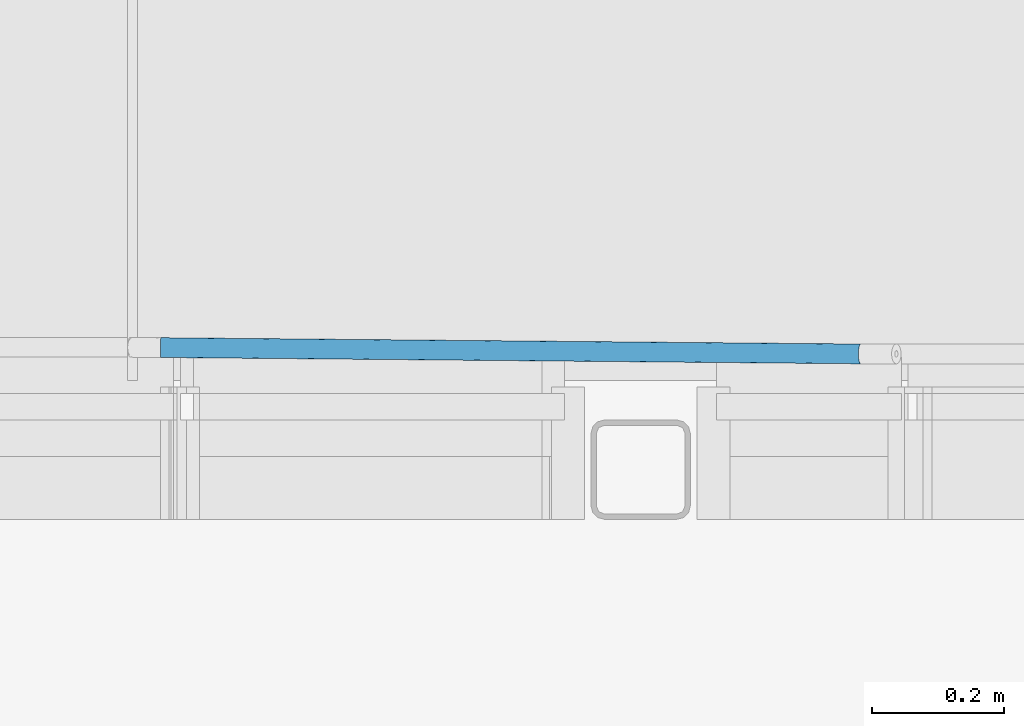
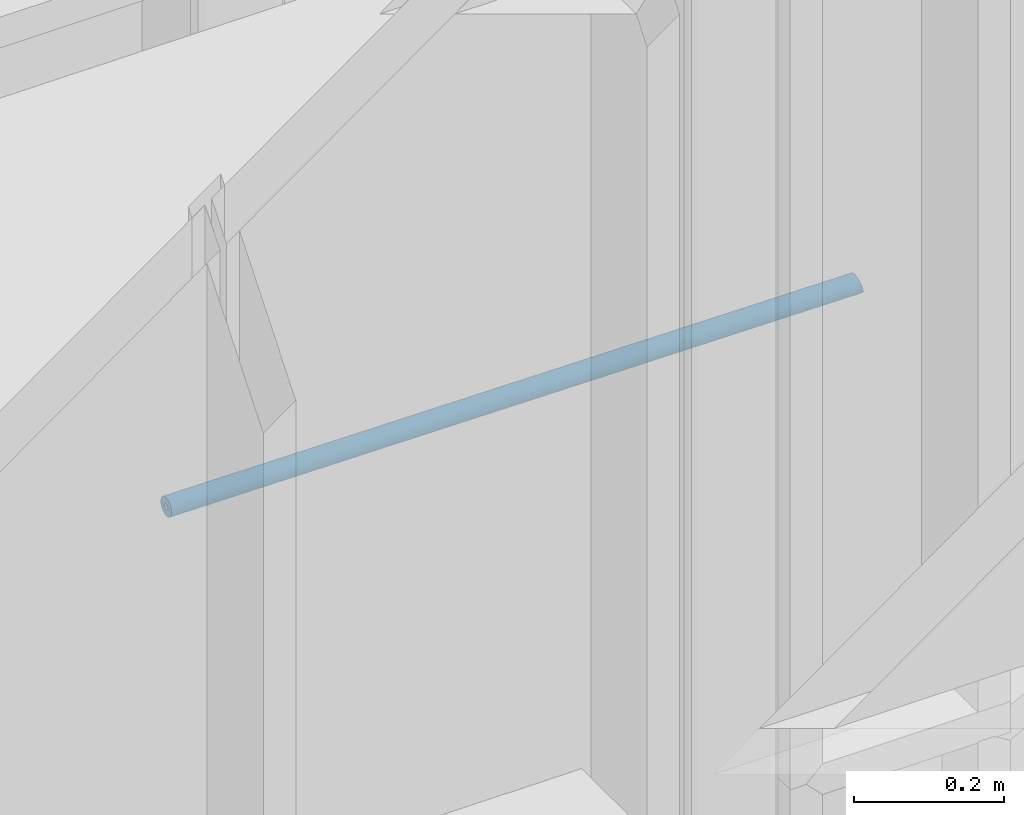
# One storey, part 191 of 301: 1 building element part, 1 element without a shape of its own.
"""IFC2X3 building model written with IfcOpenShell, lengths in millimetres."""

import ifcopenshell
import ifcopenshell.guid

model = None  # the IFC model being written
_history = None  # IfcOwnerHistory: only IFC2X3 demands one
_inside = {}  # id of a spatial element -> (the spatial element, [elements in it])
_under = {}  # id of a project, library or spatial element -> (it, [spatial elements below it])
_declared = {}  # id of a project -> (the project, [libraries it declares])
_typed = {}  # id of a type object -> (the type object, [elements of that type])
_made_of = {}  # id of a material, layer set ... -> (it, [elements and type objects made of it])


def new_model(schema):
    """Start an empty IFC model of exactly this schema.

    Asked for "IFC4X3", IfcOpenShell would pick the latest addendum, in which some entities
    have other attributes; the version numbers below select the first issue.
    IFC2X3 requires an IfcOwnerHistory on every rooted entity: one is made here for all.
    """
    global model, _history
    if schema == "IFC4X3":
        model = ifcopenshell.file(schema_version=(4, 3, 0, 0))
    else:
        model = ifcopenshell.file(schema=schema)
    _inside.clear()
    _under.clear()
    _declared.clear()
    _typed.clear()
    _made_of.clear()
    _history = None
    if model.schema == "IFC2X3":
        org = make("IfcOrganization", Name="unknown")
        user = make(
            "IfcPersonAndOrganization",
            ThePerson=make("IfcPerson", FamilyName="unknown"),
            TheOrganization=org,
        )
        app = make(
            "IfcApplication",
            ApplicationDeveloper=org,
            Version="unknown",
            ApplicationFullName="unknown",
            ApplicationIdentifier="unknown",
        )
        _history = make(
            "IfcOwnerHistory",
            OwningUser=user,
            OwningApplication=app,
            ChangeAction="ADDED",
            CreationDate=0,
        )
    return model


def make(cls, **values):
    """One entity of the class cls with the attributes given. An attribute that is None is left unset."""
    return model.create_entity(
        cls, **{name: value for name, value in values.items() if value is not None}
    )


def entity(cls, *values):
    """Any entity or typed value of the class cls, its attributes in the order of the schema. None: left unset."""
    e = model.create_entity(cls)
    for i, value in enumerate(values):
        if value is not None:
            e[i] = value
    return e


def rooted(cls, **values):
    """An entity with a GlobalId (a new one), such as an element, a storey or a relation."""
    return make(cls, GlobalId=ifcopenshell.guid.new(), OwnerHistory=_history, **values)


def si_unit(unit_type, name, prefix=None):
    """IfcSIUnit, for example si_unit("LENGTHUNIT", "METRE", prefix="MILLI")."""
    return make("IfcSIUnit", UnitType=unit_type, Prefix=prefix, Name=name)


def converted_unit(unit_type, name, factor, base, dimensions=None, offset=None):
    """IfcConversionBasedUnit, such as the inch: factor (a typed value) times the base unit."""
    return make(
        "IfcConversionBasedUnit"
        if offset is None
        else "IfcConversionBasedUnitWithOffset",
        ConversionOffset=offset,
        Dimensions=None
        if dimensions is None
        else entity("IfcDimensionalExponents", *dimensions),
        UnitType=unit_type,
        Name=name,
        ConversionFactor=make(
            "IfcMeasureWithUnit", ValueComponent=factor, UnitComponent=base
        ),
    )


def derived_unit(unit_type, elements):
    """IfcDerivedUnit: a product of units, each with its exponent."""
    return make(
        "IfcDerivedUnit",
        Elements=[
            make("IfcDerivedUnitElement", Unit=unit, Exponent=power)
            for unit, power in elements
        ],
        UnitType=unit_type,
    )


def money_unit(currency):
    """IfcMonetaryUnit."""
    return make("IfcMonetaryUnit", Currency=currency)


def assignment(units):
    """IfcUnitAssignment: the units of a project."""
    return None if units is None else make("IfcUnitAssignment", Units=units)


def point(xyz):
    """IfcCartesianPoint."""
    return None if xyz is None else make("IfcCartesianPoint", Coordinates=xyz)


def direction(xyz):
    """IfcDirection."""
    return None if xyz is None else make("IfcDirection", DirectionRatios=xyz)


def frame(location, z_axis=None, x_axis=None):
    """IfcAxis2Placement3D, a coordinate frame: its origin and axes. An axis left out is left unset."""
    return make(
        "IfcAxis2Placement3D",
        Location=point(location),
        Axis=direction(z_axis),
        RefDirection=direction(x_axis),
    )


def origin_with_axes():
    """The frame at (0, 0, 0) with the z axis (0, 0, 1) and the x axis (1, 0, 0) written out."""
    return frame((0.0, 0.0, 0.0), z_axis=(0.0, 0.0, 1.0), x_axis=(1.0, 0.0, 0.0))


def place(relative_to, where):
    """IfcLocalPlacement: puts the frame where relative to a parent placement (None: the world)."""
    return make(
        "IfcLocalPlacement", PlacementRelTo=relative_to, RelativePlacement=where
    )


def context(
    kind, dimensions, precision=None, world=None, true_north=None, identifier=None
):
    """IfcGeometricRepresentationContext, for example the 3D "Model" context."""
    return make(
        "IfcGeometricRepresentationContext",
        ContextIdentifier=identifier,
        ContextType=kind,
        CoordinateSpaceDimension=dimensions,
        Precision=precision,
        WorldCoordinateSystem=world,
        TrueNorth=true_north,
    )


def subcontext(parent, identifier, kind, view, scale=None):
    """IfcGeometricRepresentationSubContext, for example "Body" below "Model"."""
    return make(
        "IfcGeometricRepresentationSubContext",
        ContextIdentifier=identifier,
        ContextType=kind,
        ParentContext=parent,
        TargetScale=scale,
        TargetView=view,
    )


def project(units=None, contexts=None):
    """IfcProject with its units and contexts."""
    return rooted(
        "IfcProject",
        Name="project",
        RepresentationContexts=contexts,
        UnitsInContext=assignment(units),
    )


def spatial(cls, under=None, at=None, **own):
    """A site, building, storey or space (cls), placed at a placement, below another one or the project."""
    s = rooted(cls, ObjectPlacement=at, **own)
    if under is not None:
        _under.setdefault(under.id(), (under, []))[1].append(s)
    return s


def faces_of(points, faces, orient=None, outer=None):
    """IfcFace entities. A face is a list of loops; a loop is a list of indices into points, from 0.

    orient and outer hold one flag for each loop. By default every Orientation is true, the
    first loop of a face is its IfcFaceOuterBound and the others are IfcFaceBound.
    """
    made = []
    for i, loops in enumerate(faces):
        bounds = []
        for j, loop in enumerate(loops):
            is_outer = j == 0 if outer is None else outer[i][j]
            bounds.append(
                make(
                    "IfcFaceOuterBound" if is_outer else "IfcFaceBound",
                    Bound=make("IfcPolyLoop", Polygon=[points[k] for k in loop]),
                    Orientation=True if orient is None else orient[i][j],
                )
            )
        made.append(make("IfcFace", Bounds=bounds))
    return made


def faceted_brep(points, faces, orient=None, outer=None, voids=None):
    """IfcFacetedBrep: a solid bounded by flat faces; with voids (closed shells), ...WithVoids."""
    shared = [point(p) for p in points]
    hull = make("IfcClosedShell", CfsFaces=faces_of(shared, faces, orient, outer))
    if voids is None:
        return make("IfcFacetedBrep", Outer=hull)
    return make(
        "IfcFacetedBrepWithVoids",
        Outer=hull,
        Voids=[
            make(cls, CfsFaces=faces_of(shared, fs, o, b)) for cls, fs, o, b in voids
        ],
    )


def shape(context_of_items, identifier, shape_type, items):
    """IfcShapeRepresentation: the items that make up one representation, for example the "Body"."""
    return make(
        "IfcShapeRepresentation",
        ContextOfItems=context_of_items,
        RepresentationIdentifier=identifier,
        RepresentationType=shape_type,
        Items=items,
    )


def material(Name=None, Category=None):
    """IfcMaterial."""
    return make("IfcMaterial", Name=Name, Category=Category)


def made_of(thing, what):
    """Note that an element or type object is made of a material, layer set ...; save() writes the relation."""
    if what is not None:
        _made_of.setdefault(what.id(), (what, []))[1].append(thing)
    return thing


def type_object(cls, material=None, **own):
    """A type object (cls), such as IfcWallType, which elements share."""
    return made_of(rooted(cls, **own), material)


def element(
    cls,
    number,
    at=None,
    inside=None,
    cuts=None,
    type_object=None,
    material=None,
    context=None,
    identifier="Body",
    shape_type=None,
    held_by="IfcProductDefinitionShape",
    body=None,
    shapes=None,
    **own,
):
    """One element of the class cls, such as IfcWall. Its Tag is "e" and its number.

    at: its placement. inside: the storey or other place that contains it. cuts: it is an
    opening in that element (IfcRelVoidsElement). A single representation is given by context,
    identifier, shape_type and body (its items); several are given by shapes. held_by: the class
    of the entity that holds the representations. save() writes the other relations.
    """
    e = rooted(cls, Tag="e%d" % number, ObjectPlacement=at, **own)
    if body is not None:
        shapes = [shape(context, identifier, shape_type, body)]
    if shapes is not None:
        e.Representation = make(held_by, Representations=shapes)
    if inside is not None:
        _inside.setdefault(inside.id(), (inside, []))[1].append(e)
    if cuts is not None:
        rooted(
            "IfcRelVoidsElement", RelatingBuildingElement=cuts, RelatedOpeningElement=e
        )
    if type_object is not None:
        _typed.setdefault(type_object.id(), (type_object, []))[1].append(e)
    return made_of(e, material)


def aggregate(whole, parts):
    """IfcRelAggregates: a whole, such as a stair, and the parts it consists of."""
    return rooted("IfcRelAggregates", RelatingObject=whole, RelatedObjects=parts)


def save(model, path):
    """Write the relations noted so far, then the file.

    IfcRelAggregates (storeys below a building ...), IfcRelContainedInSpatialStructure (elements
    in a storey), IfcRelDefinesByType, IfcRelAssociatesMaterial and IfcRelDeclares: one each for
    every whole, place, type object, material and project.
    """
    for whole, parts in _under.values():
        aggregate(whole, parts)
    for where, things in _inside.values():
        rooted(
            "IfcRelContainedInSpatialStructure",
            RelatedElements=things,
            RelatingStructure=where,
        )
    for kind, things in _typed.values():
        rooted("IfcRelDefinesByType", RelatedObjects=things, RelatingType=kind)
    for what, things in _made_of.values():
        rooted("IfcRelAssociatesMaterial", RelatedObjects=things, RelatingMaterial=what)
    for by, libraries in _declared.values():
        rooted("IfcRelDeclares", RelatingContext=by, RelatedDefinitions=libraries)
    model.write(path)


model = new_model("IFC2X3")

# Units and contexts
model_context = context("Model", 3, precision=0.01, world=origin_with_axes(), true_north=direction((0.0, 1.0)))
body_context = subcontext(model_context, "Body", "Model", "MODEL_VIEW")
ifc_project = project(units=[si_unit("LENGTHUNIT", "METRE", prefix="MILLI"), si_unit("AREAUNIT", "SQUARE_METRE"), si_unit("VOLUMEUNIT", "CUBIC_METRE"), converted_unit("PLANEANGLEUNIT", "DEGREE", entity("IfcPlaneAngleMeasure", 0.0174532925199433), si_unit("PLANEANGLEUNIT", "RADIAN"), dimensions=[0, 0, 0, 0, 0, 0, 0]), money_unit("EUR"), converted_unit("TIMEUNIT", "Year", entity("IfcTimeMeasure", 31557600.0), si_unit("TIMEUNIT", "SECOND"), dimensions=[0, 0, 1, 0, 0, 0, 0]), si_unit("MASSUNIT", "GRAM", prefix="KILO"), si_unit("THERMODYNAMICTEMPERATUREUNIT", "DEGREE_CELSIUS"), si_unit("LUMINOUSINTENSITYUNIT", "LUMEN"), si_unit("ENERGYUNIT", "JOULE", prefix="MEGA"), derived_unit("THERMALCONDUCTANCEUNIT", [(si_unit("POWERUNIT", "WATT"), 1), (si_unit("LENGTHUNIT", "METRE"), -1), (si_unit("THERMODYNAMICTEMPERATUREUNIT", "KELVIN"), -1)]), derived_unit("SPECIFICHEATCAPACITYUNIT", [(si_unit("ENERGYUNIT", "JOULE"), 1), (si_unit("MASSUNIT", "GRAM", prefix="KILO"), -1), (si_unit("THERMODYNAMICTEMPERATUREUNIT", "KELVIN"), -1)]), derived_unit("MASSDENSITYUNIT", [(si_unit("MASSUNIT", "GRAM", prefix="KILO"), 1), (si_unit("VOLUMEUNIT", "CUBIC_METRE"), -1)])], contexts=[model_context])

# Site, building, storey
site_placement = place(None, frame((0.0, 0.0, 8650.0), z_axis=(0.0, 0.0, 1.0), x_axis=(1.0, 0.0, 0.0)))
site = spatial("IfcSite", under=ifc_project, at=site_placement, Name="43301:001:0844", CompositionType="ELEMENT")
building_placement = place(site_placement, origin_with_axes())
building = spatial("IfcBuilding", under=site, at=building_placement, Name="Kuressaare Ametikooli tuulikute mehaanikute õppekorpus", CompositionType="ELEMENT")
storey_placement = place(building_placement, origin_with_axes())
storey = spatial("IfcBuildingStorey", under=building, at=storey_placement, Name="1.korrus", CompositionType="ELEMENT", Elevation=0.0)

# Railing, building element part
railing_type = type_object("IfcRailingType", Name="Railing Type", PredefinedType="NOTDEFINED")
railing_placement = place(storey_placement, frame((107882.9493746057, 26509.57374875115, 157.6923606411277), z_axis=(0.0, 0.0, 1.0), x_axis=(1.0, 0.0, 0.0)))
railing = element("IfcRailing", 1, at=railing_placement, inside=storey, type_object=railing_type, Name="Piire", PredefinedType="NOTDEFINED")
ifc_material = material(Name="Metall - Teras - Roostevaba")
building_element_part_placement = place(railing_placement, origin_with_axes())
building_element_part = element("IfcBuildingElementPart", 2, at=building_element_part_placement, material=ifc_material, Name="Metall - Teras - Roostevaba", context=body_context, shape_type="Brep", body=[
    faceted_brep([(2609.304336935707, 48.05500736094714, 2567.665878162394), (2609.335024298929, 48.05472964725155, 2567.665878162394), (3670.364375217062, 38.47917582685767, 2567.665892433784), (2609.321452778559, 46.55507664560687, 2569.807692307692), (2609.293381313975, 46.55533068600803, 2569.807692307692), (2609.318821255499, 49.9038044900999, 2565.817025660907), (2609.351755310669, 49.90350644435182, 2565.817025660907), (3670.843445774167, 40.32575845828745, 2565.817041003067), (3669.812486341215, 36.98208926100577, 2569.807705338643), (2609.286287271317, 45.45034138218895, 2572.177390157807), (2609.311453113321, 45.45011363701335, 2572.177390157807), (2609.283270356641, 44.77361399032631, 2574.702969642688), (2609.284422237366, 44.54571052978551, 2577.307692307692), (2609.289707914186, 44.77355573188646, 2579.912414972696), (2609.298966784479, 45.45022663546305, 2582.437994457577), (2609.311917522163, 46.55516293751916, 2584.807692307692), (2609.328166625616, 48.05479170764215, 2586.94950645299), (2609.347220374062, 49.90354748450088, 2588.798358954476), (2609.368499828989, 52.04525675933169, 2590.298073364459), (2609.391358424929, 54.41484477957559, 2591.40308161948), (2609.415101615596, 56.9403128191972, 2592.079809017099), (2609.43900797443, 59.54492578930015, 2592.307692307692), (2609.462351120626, 62.149543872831, 2592.07980860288), (2609.484421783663, 64.67502703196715, 2591.40308161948), (2609.504549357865, 67.04463976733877, 2590.298073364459), (2609.522122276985, 69.18638258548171, 2588.798358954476), (2609.536606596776, 71.03517971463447, 2586.94950645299), (2609.547562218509, 72.53485638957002, 2584.807692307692), (2609.554656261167, 73.63984569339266, 2582.437994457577), (2609.557673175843, 74.3165730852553, 2579.912414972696), (2609.556521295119, 74.5444765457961, 2577.307692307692), (2609.551235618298, 74.31663134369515, 2574.702969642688), (2609.541976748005, 73.63996044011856, 2572.177390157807), (2609.529026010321, 72.53502413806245, 2569.807692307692), (2609.512776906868, 71.03539536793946, 2567.665878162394), (2609.493723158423, 69.18663959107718, 2565.817025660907), (2609.472443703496, 67.04493031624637, 2564.317311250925), (2609.449585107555, 64.67534229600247, 2563.212302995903), (2609.425841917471, 62.14987426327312, 2562.535576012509), (2609.401935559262, 59.54526141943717, 2562.307692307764), (2609.378592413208, 56.94064335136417, 2562.535576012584), (2609.356521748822, 54.41516004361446, 2563.212302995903), (2609.336394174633, 52.04554730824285, 2564.317311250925), (2609.376883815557, 54.62124760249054, 2578.175933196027), (2609.375121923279, 54.54529920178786, 2577.307692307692), (2609.374737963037, 54.62126702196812, 2576.439451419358), (2609.375743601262, 54.84684281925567, 2575.597591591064), (2609.378108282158, 55.21517258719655, 2574.807692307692), (2609.381760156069, 55.71506481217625, 2574.093754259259), (2609.386588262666, 56.33133052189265, 2573.477470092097), (2609.392445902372, 57.04524479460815, 2572.97756528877), (2609.399155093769, 57.83511570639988, 2572.609229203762), (2609.40651198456, 58.67694376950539, 2572.383653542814), (2609.414293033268, 59.54514979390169, 2572.307692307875), (2609.422261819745, 60.41335412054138, 2572.383653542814), (2609.430176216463, 61.25517680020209, 2572.609229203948), (2609.437795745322, 62.04503913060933, 2572.97756528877), (2609.444888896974, 62.75894222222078, 2573.477470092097), (2609.451240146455, 63.37519414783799, 2574.093754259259), (2609.456656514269, 63.87507040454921, 2574.807692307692), (2609.460973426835, 64.2433825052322, 2575.597591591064), (2609.464059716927, 64.46893947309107, 2576.439451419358), (2609.465821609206, 64.54488787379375, 2577.307692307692), (2609.466205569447, 64.46892005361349, 2578.175933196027), (2609.465199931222, 64.24334425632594, 2579.01779302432), (2609.462835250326, 63.87501448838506, 2579.807692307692), (2609.459183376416, 63.37512226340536, 2580.521630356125), (2609.454355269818, 62.75885655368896, 2581.137914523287), (2609.448497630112, 62.04494228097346, 2581.637819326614), (2609.441788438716, 61.25507136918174, 2582.006155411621), (2609.434431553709, 60.41324394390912, 2582.231731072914), (2609.426650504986, 59.54503791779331, 2582.307692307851), (2609.418681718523, 58.67683359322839, 2582.231731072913), (2609.410767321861, 57.83501091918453, 2582.006155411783), (2609.403147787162, 57.04514794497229, 2581.637819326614), (2609.396054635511, 56.33124485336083, 2581.137914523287), (2609.389703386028, 55.71499292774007, 2580.521630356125), (2609.384287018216, 55.2151166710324, 2579.807692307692), (2609.37997010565, 54.84680457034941, 2579.01779302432), (2609.371137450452, 52.04523288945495, 2564.317311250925), (3671.235141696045, 42.46572967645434, 2564.31732746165), (3666.59527244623, 35.89255693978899, 2582.438000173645), (3667.234268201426, 35.21273773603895, 2579.912422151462), (3667.895552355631, 34.98166366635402, 2577.307700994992), (3668.559032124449, 35.20635579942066, 2574.702979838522), (3669.204548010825, 35.87998697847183, 2572.177401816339), (3671.527561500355, 44.83406753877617, 2563.212319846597), (3671.711820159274, 47.35881129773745, 2562.535593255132), (3671.782319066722, 49.96324789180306, 2562.307709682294), (3671.736916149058, 52.56824283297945, 2562.535593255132), (3671.576990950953, 55.09464466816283, 2563.212319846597), (3671.307402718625, 57.46568995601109, 2564.31732746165), (3670.936342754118, 59.60933568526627, 2565.817041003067), (3670.475085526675, 61.46044826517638, 2567.665892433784), (3669.937646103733, 62.96278257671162, 2569.807705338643), (3669.340354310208, 64.07069095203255, 2572.177401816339), (3668.701358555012, 64.75051015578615, 2574.702979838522), (3668.040074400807, 64.98158422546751, 2577.307700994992), (3667.376594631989, 64.75689209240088, 2579.912422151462), (3666.731078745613, 64.08326091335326, 2582.438000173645), (3666.123140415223, 62.98115863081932, 2584.807696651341), (3665.571251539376, 61.48407206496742, 2586.9495095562), (3665.09218098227, 59.63748943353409, 2588.798360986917), (3664.700485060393, 57.49751821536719, 2590.298074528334), (3664.408065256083, 55.12918035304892, 2591.403082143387), (3664.223806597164, 52.60443659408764, 2592.079808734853), (3664.153307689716, 50.00000000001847, 2592.30769230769), (3664.19871060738, 47.39500505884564, 2592.079808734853), (3664.358635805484, 44.86860322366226, 2591.403082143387), (3664.628224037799, 42.49755793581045, 2590.298074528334), (3664.99928400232, 40.35391220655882, 2588.798360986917), (3665.460541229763, 38.50279962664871, 2586.9495095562), (3665.997980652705, 37.00046531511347, 2584.807696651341), (3666.764754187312, 48.27728370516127, 2582.006161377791), (3666.711445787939, 49.11941765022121, 2582.231736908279), (3666.696311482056, 49.98774929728, 2582.307698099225), (3666.719811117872, 50.85589482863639, 2582.231736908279), (3666.781230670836, 51.69747608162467, 2582.006161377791), (3666.878703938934, 52.48692203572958, 2581.637825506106), (3667.009269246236, 53.20024577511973, 2581.1379209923), (3667.168959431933, 53.81577331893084, 2580.521637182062), (3667.352922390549, 54.3148021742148, 2579.807699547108), (3667.555568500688, 54.68216960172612, 2579.01780072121), (3667.770740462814, 54.90671332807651, 2578.175941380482), (3667.991900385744, 54.98161070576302, 2577.307700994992), (3668.21232843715, 54.90458601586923, 2576.439460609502), (3668.42532702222, 54.6779796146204, 2575.597601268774), (3668.624424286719, 54.30867682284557, 2574.807702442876), (3668.803570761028, 53.80789871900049, 2574.093764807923), (3668.95732317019, 53.1908611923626, 2573.477480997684), (3669.081009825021, 52.47631261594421, 2572.977576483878), (3669.170872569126, 51.68596418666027, 2572.609240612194), (3669.224180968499, 50.84383024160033, 2572.383665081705), (3669.239315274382, 49.97549859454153, 2572.30770389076), (3669.215815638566, 49.10735306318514, 2572.383665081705), (3669.154396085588, 48.26577181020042, 2572.609240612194), (3669.05692281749, 47.47632585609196, 2572.977576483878), (3668.926357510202, 46.76300211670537, 2573.477480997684), (3668.766667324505, 46.14747457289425, 2574.093764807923), (3668.582704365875, 45.64844571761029, 2574.807702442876), (3668.38005825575, 45.28107829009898, 2575.597601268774), (3668.164886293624, 45.05653456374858, 2576.439460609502), (3667.943726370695, 44.98163718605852, 2577.307700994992), (3667.723298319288, 45.05866187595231, 2578.175941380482), (3667.510299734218, 45.28526827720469, 2579.01780072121), (3667.311202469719, 45.65457106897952, 2579.807699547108), (3667.132055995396, 46.1553491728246, 2580.521637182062), (3666.978303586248, 46.77238669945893, 2581.1379209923), (3666.854616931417, 47.48693527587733, 2581.637825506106), (2609.305329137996, 44.7734143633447, 2574.702969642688), (2609.303266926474, 44.5455399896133, 2577.307692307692), (2609.305329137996, 44.7734143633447, 2579.912414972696), (2609.311453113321, 45.45011363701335, 2582.437994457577), (2609.566562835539, 73.63973794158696, 2582.437994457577), (2609.572686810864, 74.3164372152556, 2579.912414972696), (2609.574749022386, 74.544311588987, 2577.307692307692), (2609.572686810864, 74.3164372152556, 2574.702969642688), (2609.566562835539, 73.63973794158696, 2572.177390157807), (2609.556563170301, 72.53477493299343, 2569.807692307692), (2609.542991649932, 71.03512193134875, 2567.665878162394), (2609.526260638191, 69.18634513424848, 2565.817025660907), (2609.506878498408, 67.04461868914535, 2564.317311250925), (2609.485434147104, 64.67501787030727, 2563.212302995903), (2609.462579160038, 62.14954179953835, 2562.535576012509), (2609.392581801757, 54.41483370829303, 2563.212302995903), (2609.394448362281, 54.62108864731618, 2578.175933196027), (2609.39376095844, 54.54513052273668, 2577.307692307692), (2609.394448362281, 54.62108864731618, 2576.439451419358), (2609.396489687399, 54.84665507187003, 2575.597591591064), (2609.39982290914, 55.21497607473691, 2574.807692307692), (2609.404346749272, 55.71486040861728, 2574.093754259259), (2609.409923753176, 56.33111934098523, 2573.477470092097), (2609.416384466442, 57.04502815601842, 2572.97756528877), (2609.423532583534, 57.83489509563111, 2572.609229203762), (2609.461631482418, 62.04482342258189, 2572.97756528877), (2609.468092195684, 62.75873223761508, 2573.477470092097), (2609.473669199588, 63.37499116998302, 2574.093754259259), (2609.47819303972, 63.87487550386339, 2574.807692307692), (2609.481526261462, 64.24319650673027, 2575.597591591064), (2609.48356758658, 64.46876293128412, 2576.439451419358), (2609.48425499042, 64.54472105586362, 2577.307692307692), (2609.48356758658, 64.46876293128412, 2578.175933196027), (2609.481526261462, 64.24319650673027, 2579.01779302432), (2609.47819303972, 63.87487550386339, 2579.807692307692), (2609.473669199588, 63.37499116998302, 2580.521630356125), (2609.468092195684, 62.75873223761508, 2581.137914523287), (2609.461631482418, 62.04482342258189, 2581.637819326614), (2609.454483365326, 61.25495648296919, 2582.006155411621), (2609.416384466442, 57.04502815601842, 2581.637819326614), (2609.409923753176, 56.33111934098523, 2581.137914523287), (2609.404346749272, 55.71486040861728, 2580.521630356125), (2609.39982290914, 55.21497607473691, 2579.807692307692), (2609.396489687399, 54.84665507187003, 2579.01779302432)], [[[0, 1, 2, 3, 4]], [[1, 0, 5, 6, 7]], [[1, 7, 2]], [[3, 2, 8]], [[9, 4, 3, 8, 10]], [[5, 0, 4, 9, 11, 12, 13, 14, 15, 16, 17, 18, 19, 20, 21, 22, 23, 24, 25, 26, 27, 28, 29, 30, 31, 32, 33, 34, 35, 36, 37, 38, 39, 40, 41, 42], [43, 44, 45, 46, 47, 48, 49, 50, 51, 52, 53, 54, 55, 56, 57, 58, 59, 60, 61, 62, 63, 64, 65, 66, 67, 68, 69, 70, 71, 72, 73, 74, 75, 76, 77, 78]], [[5, 42, 79, 80, 6]], [[7, 6, 80]], [[81, 82, 83, 84, 85, 8, 2, 7, 80, 86, 87, 88, 89, 90, 91, 92, 93, 94, 95, 96, 97, 98, 99, 100, 101, 102, 103, 104, 105, 106, 107, 108, 109, 110, 111, 112], [113, 114, 115, 116, 117, 118, 119, 120, 121, 122, 123, 124, 125, 126, 127, 128, 129, 130, 131, 132, 133, 134, 135, 136, 137, 138, 139, 140, 141, 142, 143, 144, 145, 146, 147, 148]], [[85, 10, 8]], [[11, 9, 10, 85, 149]], [[150, 12, 11, 149, 84]], [[12, 150, 83, 151, 13]], [[13, 151, 82, 152, 14]], [[14, 152, 81, 15]], [[16, 15, 112]], [[17, 16, 111]], [[18, 17, 110]], [[19, 18, 109]], [[20, 19, 108]], [[21, 20, 107, 106]], [[22, 21, 106, 105]], [[22, 105, 23]], [[23, 104, 24]], [[103, 25, 24]], [[102, 26, 25]], [[101, 27, 26]], [[153, 28, 27, 100]], [[29, 28, 153, 99, 154]], [[30, 29, 154, 98, 155]], [[156, 31, 30, 155, 97]], [[157, 32, 31, 156, 96]], [[33, 32, 157, 95, 158]], [[159, 34, 33, 158, 94]], [[160, 35, 34, 159, 93]], [[161, 36, 35, 160, 92]], [[37, 36, 161, 91, 162]], [[38, 37, 162, 90, 163]], [[39, 38, 163, 89, 88]], [[40, 39, 88, 87]], [[164, 41, 40, 87]], [[79, 42, 41, 164, 86]], [[44, 43, 165, 143, 166]], [[44, 166, 142, 167, 45]], [[168, 46, 45, 167, 141]], [[46, 168, 140, 169, 47]], [[48, 47, 169, 139, 170]], [[48, 170, 138, 171, 49]], [[50, 49, 171, 137, 172]], [[51, 50, 172, 136, 173]], [[52, 51, 173, 135, 134]], [[53, 52, 134, 133]], [[54, 53, 133, 132]], [[55, 54, 132, 131]], [[56, 55, 131, 174]], [[57, 56, 174, 130, 175]], [[58, 57, 175, 129, 176]], [[59, 58, 176, 128, 177]], [[60, 59, 177, 127, 178]], [[61, 60, 178, 126, 179]], [[62, 61, 179, 125, 180]], [[63, 62, 180, 124, 181]], [[64, 63, 181, 123, 182]], [[65, 64, 182, 122, 183]], [[66, 65, 183, 121, 184]], [[67, 66, 184, 120, 185]], [[68, 67, 185, 119, 186]], [[69, 68, 186, 118, 187]], [[69, 187, 117, 116, 70]], [[71, 70, 116, 115]], [[72, 71, 115, 114]], [[73, 72, 114, 113]], [[74, 73, 113, 188]], [[75, 74, 188, 148, 189]], [[76, 75, 189, 147, 190]], [[77, 76, 190, 146, 191]], [[192, 78, 77, 191, 145]], [[43, 78, 192, 144, 165]], [[80, 79, 86]], [[152, 82, 81]], [[82, 151, 83]], [[83, 150, 84]], [[84, 149, 85]], [[86, 164, 87]], [[89, 163, 90]], [[91, 90, 162]], [[92, 91, 161]], [[93, 92, 160]], [[94, 93, 159]], [[95, 94, 158]], [[157, 96, 95]], [[96, 156, 97]], [[97, 155, 98]], [[154, 99, 98]], [[100, 99, 153]], [[101, 100, 27]], [[26, 102, 101]], [[25, 103, 102]], [[104, 103, 24]], [[105, 104, 23]], [[20, 108, 107]], [[108, 19, 109]], [[109, 18, 110]], [[17, 111, 110]], [[111, 16, 112]], [[112, 15, 81]], [[187, 118, 117]], [[119, 118, 186]], [[120, 119, 185]], [[120, 184, 121]], [[121, 183, 122]], [[122, 182, 123]], [[123, 181, 124]], [[124, 180, 125]], [[179, 126, 125]], [[178, 127, 126]], [[127, 177, 128]], [[176, 129, 128]], [[175, 130, 129]], [[174, 131, 130]], [[173, 136, 135]], [[172, 137, 136]], [[171, 138, 137]], [[170, 139, 138]], [[139, 169, 140]], [[168, 141, 140]], [[167, 142, 141]], [[166, 143, 142]], [[143, 165, 144]], [[144, 192, 145]], [[191, 146, 145]], [[190, 147, 146]], [[189, 148, 147]], [[148, 188, 113]]]),
])
aggregate(railing, [building_element_part])

save(model, "model.ifc")
